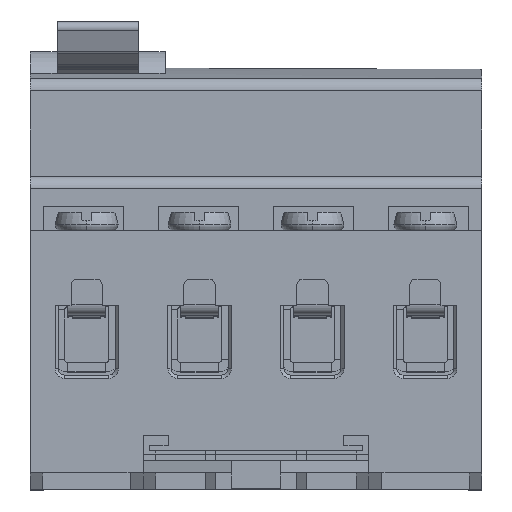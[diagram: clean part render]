
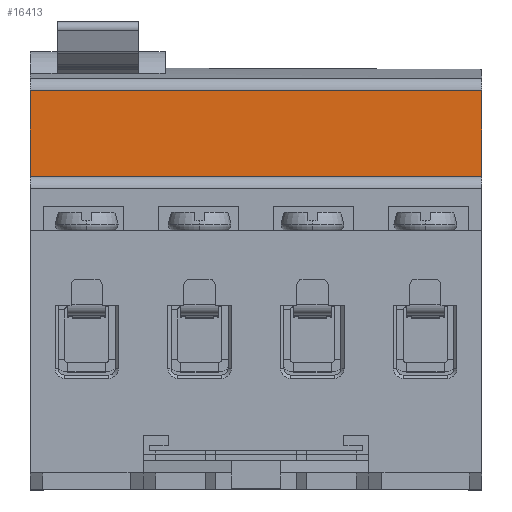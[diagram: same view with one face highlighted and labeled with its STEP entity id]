
A CAD part, top view. The second image highlights one B-rep face of the part: STEP entity #16413.
In plain terms, the highlighted planar face has unit normal (0, 0, 1) as drawn and (-1, 0, 0) by its records, which use the part's own axes.
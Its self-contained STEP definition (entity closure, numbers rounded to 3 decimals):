
#89 = CARTESIAN_POINT ( 'NONE',  ( 19.25, 0., -22.401 ) ) ;
#254 = LINE ( 'NONE', #3267, #18454 ) ;
#1188 = DIRECTION ( 'NONE',  ( 0., 0., 1. ) ) ;
#1254 = VECTOR ( 'NONE', #8367, 1000. ) ;
#1401 = CARTESIAN_POINT ( 'NONE',  ( 19.25, -72., -8.7 ) ) ;
#1994 = VERTEX_POINT ( 'NONE', #14917 ) ;
#2163 = CARTESIAN_POINT ( 'NONE',  ( 19.25, 0., -8.7 ) ) ;
#2550 = CARTESIAN_POINT ( 'NONE',  ( 19.25, -72., -8.7 ) ) ;
#3267 = CARTESIAN_POINT ( 'NONE',  ( 19.25, -72., -8.7 ) ) ;
#4100 = EDGE_LOOP ( 'NONE', ( #21753, #5049, #5101, #15154 ) ) ;
#4377 = CARTESIAN_POINT ( 'NONE',  ( 19.25, 0., -8.7 ) ) ;
#4614 = CARTESIAN_POINT ( 'NONE',  ( 19.25, -72., -22.401 ) ) ;
#5049 = ORIENTED_EDGE ( 'NONE', *, *, #16680, .T. ) ;
#5101 = ORIENTED_EDGE ( 'NONE', *, *, #8304, .T. ) ;
#5469 = PLANE ( 'NONE',  #21122 ) ;
#6920 = DIRECTION ( 'NONE',  ( 0., 1., 0. ) ) ;
#6983 = LINE ( 'NONE', #1401, #20125 ) ;
#8304 = EDGE_CURVE ( 'NONE', #1994, #19586, #254, .T. ) ;
#8367 = DIRECTION ( 'NONE',  ( 0., -1., 0. ) ) ;
#8425 = FACE_OUTER_BOUND ( 'NONE', #4100, .T. ) ;
#9316 = CARTESIAN_POINT ( 'NONE',  ( 19.25, -72., -8.7 ) ) ;
#10223 = VERTEX_POINT ( 'NONE', #2163 ) ;
#11215 = DIRECTION ( 'NONE',  ( -1., 0., 0. ) ) ;
#12096 = DIRECTION ( 'NONE',  ( 0., 0., 1. ) ) ;
#13497 = VERTEX_POINT ( 'NONE', #89 ) ;
#14917 = CARTESIAN_POINT ( 'NONE',  ( 19.25, -72., -22.401 ) ) ;
#15154 = ORIENTED_EDGE ( 'NONE', *, *, #22427, .T. ) ;
#16413 = ADVANCED_FACE ( 'NONE', ( #8425 ), #5469, .T. ) ;
#16680 = EDGE_CURVE ( 'NONE', #13497, #1994, #21832, .T. ) ;
#17059 = LINE ( 'NONE', #4377, #23351 ) ;
#18454 = VECTOR ( 'NONE', #1188, 1000. ) ;
#19586 = VERTEX_POINT ( 'NONE', #2550 ) ;
#20125 = VECTOR ( 'NONE', #6920, 1000. ) ;
#21122 = AXIS2_PLACEMENT_3D ( 'NONE', #9316, #11215, #24575 ) ;
#21753 = ORIENTED_EDGE ( 'NONE', *, *, #23336, .F. ) ;
#21832 = LINE ( 'NONE', #4614, #1254 ) ;
#22427 = EDGE_CURVE ( 'NONE', #19586, #10223, #6983, .T. ) ;
#23336 = EDGE_CURVE ( 'NONE', #13497, #10223, #17059, .T. ) ;
#23351 = VECTOR ( 'NONE', #12096, 1000. ) ;
#24575 = DIRECTION ( 'NONE',  ( 0., 0., 1. ) ) ;
